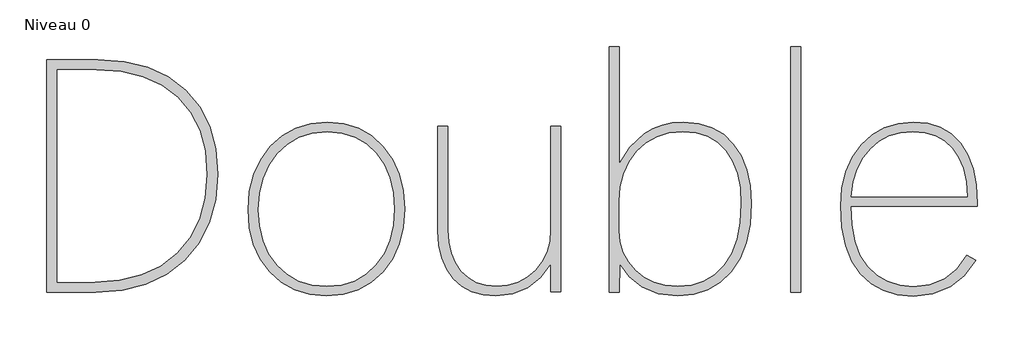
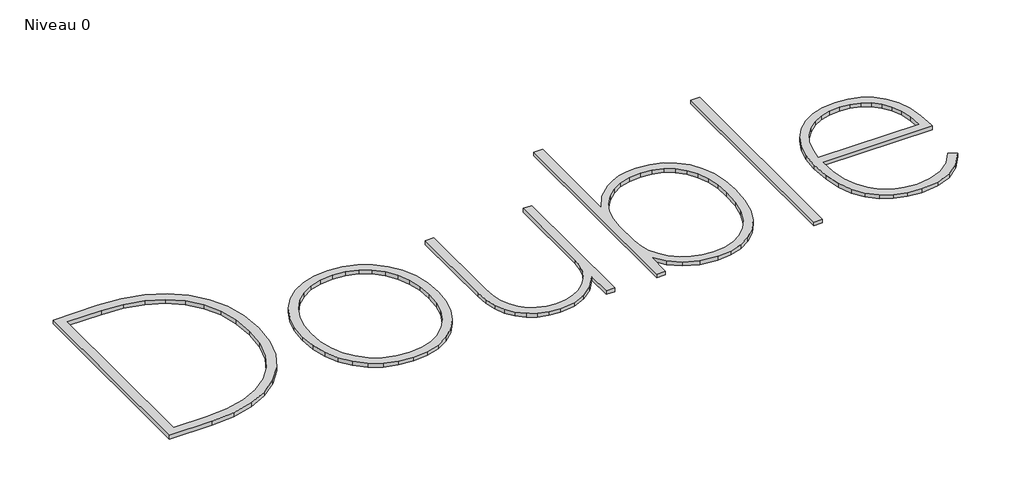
# One storey, part 26 of 26: 1 proxy.
"""IFC4 building model written with IfcOpenShell, lengths in millimetres."""

from ifc_helpers import new_model, si_unit, origin, origin_with_axes, place, context, project, spatial, polyline, outline, extrude, element, save

model = new_model("IFC4")

# Units and contexts
model_context = context("Model", 3, world=origin())
ifc_project = project(units=[si_unit("LENGTHUNIT", "METRE", prefix="MILLI")], contexts=[model_context])

# Site, building, storey
site = spatial("IfcSite", under=ifc_project)
building = spatial("IfcBuilding", under=site)
storey = spatial("IfcBuildingStorey", under=building, Name="Niveau 0", Elevation=0.0)

# Proxy
placement = place(None, origin())
element("IfcBuildingElementProxy", 1, Name="5 mm", ObjectType="5 mm", at=placement, inside=storey, context=model_context, shape_type="SweptSolid", body=[
    extrude(outline(polyline([(34014.4887393, 5620.5662903), (34014.4887393, 6125.5935806), (34125.3813725, 6125.5935806), (34183.3586482, 6121.4660982), (34234.6774824, 6109.0836509), (34279.3378751, 6088.4462389), (34317.3398263, 6059.553862), (34347.6784655, 6023.355043), (34369.3489221, 5980.7983046), (34382.351196, 5931.8836467), (34386.6852873, 5876.6110694), (34382.1962393, 5821.1177963), (34368.7290954, 5771.5410508), (34346.2838554, 5727.880833), (34314.8605195, 5690.1371429), (34275.8396107, 5659.6998949), (34230.6016522, 5637.9590035), (34179.1466439, 5624.9144686), (34121.474586, 5620.5662903), (34014.4887393, 5620.5662903)]), holes=[polyline([(34037.7791975, 6104.1062546), (34037.7791975, 5642.0536163), (34119.0704096, 5642.0536163), (34172.7840289, 5645.9604028), (34220.4778159, 5657.6807624), (34262.1517709, 5677.2146951), (34297.8058937, 5704.5622008), (34326.3695745, 5738.7090178), (34346.7722037, 5778.640884), (34359.0137813, 5824.3577995), (34363.0943071, 5875.8597643), (34359.1217814, 5927.3711204), (34347.2042042, 5972.6654268), (34327.3415755, 6011.7426835), (34299.5338954, 6044.6028905), (34264.6357734, 6070.6356123), (34223.501819, 6089.2304136), (34176.1320322, 6100.3872944), (34122.5264131, 6104.1062546), (34037.7791975, 6104.1062546)])]), origin_with_axes(), (0.0, 0.0, 1.0), 10.0),
    extrude(outline(polyline([(34623.0458727, 5612.1516732), (34586.6498362, 5615.4104591), (34553.9445859, 5625.1868167), (34524.9301219, 5641.4807461), (34499.6064443, 5664.2922473), (34479.0629454, 5692.3347103), (34464.3890176, 5724.321525), (34455.5846609, 5760.2526916), (34452.6498754, 5800.1282099), (34455.6832697, 5840.2479024), (34464.7834528, 5876.4608084), (34479.9504246, 5908.7669278), (34501.184185, 5937.1662607), (34527.0854285, 5960.3064579), (34556.2548491, 5976.8351702), (34588.6924469, 5986.7523975), (34624.3982219, 5990.05814), (34660.6299105, 5986.7430062), (34693.1426389, 5976.7976049), (34721.9364069, 5960.2219361), (34747.0112147, 5937.0159997), (34767.3246265, 5908.6166668), (34781.8342063, 5876.4608084), (34790.5399541, 5840.5484245), (34793.4418701, 5800.879515), (34790.5023889, 5761.1026055), (34781.6839452, 5725.1667433), (34766.9865392, 5693.0719284), (34746.4101707, 5664.8181609), (34721.0630147, 5641.7765725), (34692.0532465, 5625.3182951), (34659.3808658, 5615.4433287), (34623.0458727, 5612.1516732)]), holes=[polyline([(34623.7971778, 5632.887694), (34655.5586011, 5635.8130883), (34683.9767166, 5644.589271), (34709.0515244, 5659.2162422), (34730.7830245, 5679.6940019), (34748.33539, 5704.8392446), (34760.8727939, 5733.4686647), (34768.3952362, 5765.5822622), (34770.902717, 5801.1800371), (34768.4046275, 5836.7684207), (34760.9103591, 5868.8538442), (34748.4199118, 5897.4363078), (34730.9332855, 5922.5158112), (34709.2863073, 5942.9278317), (34684.3148039, 5957.5078464), (34656.0187755, 5966.2558552), (34624.3982219, 5969.1718581), (34592.6931466, 5966.204203), (34564.1435527, 5957.3012375), (34538.7494402, 5942.4629617), (34516.5108091, 5921.6893756), (34498.4325301, 5896.2670892), (34485.5194736, 5867.4827124), (34477.7716398, 5835.3362453), (34475.1890285, 5799.8276879), (34477.7293788, 5764.394261), (34485.35043, 5732.4731854), (34498.0521819, 5704.0644612), (34515.8346345, 5679.1680884), (34537.8243958, 5658.9204158), (34563.1480734, 5644.4577926), (34591.8056674, 5635.7802187), (34623.7971778, 5632.887694)])]), origin_with_axes(), (0.0, 0.0, 1.0), 10.0),
    extrude(outline(polyline([(35132.8815156, 5620.8668124), (35111.3941897, 5620.8668124), (35111.3941897, 5682.6240918), (35088.9301671, 5652.4028441), (35061.3572698, 5630.2581262), (35028.6003673, 5616.6782864), (34991.6361563, 5612.1516732), (34963.9505632, 5614.5041973), (34939.3453211, 5621.5617696), (34917.8204299, 5633.3243901), (34899.3758896, 5649.7920588), (34884.5845704, 5670.4200796), (34874.0193424, 5694.6637561), (34867.6802056, 5722.5230885), (34865.56716, 5753.9980766), (34865.56716, 5981.4932618), (34887.355008, 5981.4932618), (34887.355008, 5756.1017309), (34889.1252706, 5728.9326601), (34894.4360586, 5704.8251576), (34903.2873718, 5683.7792234), (34915.6792104, 5665.7948575), (34931.1607911, 5651.3979735), (34949.2813311, 5641.1144849), (34970.0408302, 5634.9443917), (34993.4392885, 5632.887694), (35017.8191391, 5635.0758701), (35040.0202049, 5641.6403985), (35060.0424859, 5652.581279), (35077.8859821, 5667.8985118), (35092.5458229, 5686.5872262), (35103.0171378, 5707.6425518), (35109.2999267, 5731.0644883), (35111.3941897, 5756.853036), (35111.3941897, 5981.4932618), (35132.8815156, 5981.4932618), (35132.8815156, 5620.8668124)])), origin_with_axes(), (0.0, 0.0, 1.0), 10.0),
    extrude(outline(polyline([(35261.2044272, 5681.8727867), (35260.1526001, 5620.5662903), (35238.3647521, 5620.5662903), (35238.3647521, 6154.4436965), (35260.1526001, 6154.4436965), (35260.1526001, 5899.1502225), (35282.59784, 5935.4006937), (35313.7206539, 5964.5137665), (35332.5643251, 5975.6894299), (35353.107824, 5983.6720466), (35375.3511507, 5988.4616166), (35399.2943052, 5990.05814), (35432.2390339, 5987.0857892), (35461.3521067, 5978.1687367), (35486.6335234, 5963.3069827), (35508.0832841, 5942.500527), (35525.1754752, 5916.5851966), (35537.3841831, 5886.3968184), (35544.7094079, 5851.9353925), (35547.1511494, 5813.2009187), (35544.4229728, 5767.8502645), (35536.2384428, 5727.9653548), (35522.5975595, 5693.5461898), (35503.500323, 5664.5927694), (35479.8295166, 5641.6497898), (35452.4679238, 5625.2619472), (35421.4155448, 5615.4292417), (35386.6723794, 5612.1516732), (35344.3363369, 5617.0351563), (35308.9874318, 5631.6856058), (35281.1140125, 5653.9993674), (35261.2044272, 5681.8727867)]), holes=[polyline([(35260.1526001, 5817.8590104), (35260.1526001, 5753.6975546), (35262.3642545, 5729.5947477), (35268.9992177, 5707.3232471), (35280.0574897, 5686.8830526), (35295.5390704, 5668.2741644), (35314.5236113, 5652.7925836), (35336.0907634, 5641.7343116), (35360.2405268, 5635.0993484), (35386.9729015, 5632.887694), (35416.4851051, 5635.7379577), (35442.9639143, 5644.288749), (35466.4093292, 5658.5400676), (35486.8213497, 5678.4919138), (35503.3547576, 5703.9940264), (35515.1643347, 5734.8961444), (35522.2500809, 5771.1982678), (35524.6119964, 5812.9003967), (35522.5130377, 5847.6952143), (35516.2161618, 5878.4517669), (35505.7213687, 5905.1700547), (35491.0286582, 5927.8500775), (35472.6357702, 5945.9283565), (35451.0404441, 5958.841413), (35426.2426801, 5966.5892468), (35398.242478, 5969.1718581), (35368.8993181, 5966.5000293), (35342.4768568, 5958.484543), (35318.975094, 5945.1253992), (35298.3940298, 5926.4225978), (35281.6634043, 5903.6064009), (35269.7129575, 5877.9070707), (35262.5426895, 5849.3246072), (35260.1526001, 5817.8590104)])]), origin_with_axes(), (0.0, 0.0, 1.0), 10.0),
    extrude(outline(polyline([(35632.6496702, 5620.5662903), (35632.6496702, 6154.4436965), (35654.4375182, 6154.4436965), (35654.4375182, 5620.5662903), (35632.6496702, 5620.5662903)])), origin_with_axes(), (0.0, 0.0, 1.0), 10.0),
    extrude(outline(polyline([(36038.8052088, 5807.641261), (35763.3767581, 5807.641261), (35765.2409339, 5766.4086978), (35771.8852884, 5730.7639663), (35783.3098216, 5700.7070665), (35799.5145335, 5676.2379985), (35819.6823799, 5657.2534576), (35842.9963164, 5643.6501396), (35869.456343, 5635.4280444), (35899.0624597, 5632.587172), (35935.2753657, 5636.8132632), (35967.280963, 5649.4915368), (35994.2903815, 5670.6219928), (36015.5147507, 5700.2046312), (36034.5979003, 5689.9868818), (36010.405876, 5656.1593696), (35979.3018447, 5631.6104753), (35941.9619811, 5616.6782864), (35899.0624597, 5611.7008901), (35864.8921645, 5614.8892411), (35834.3563077, 5624.0035112), (35807.4548893, 5639.0437002), (35784.1879094, 5660.0098082), (35765.4193688, 5687.2493139), (35752.0132684, 5721.1096957), (35743.9696081, 5761.5909538), (35741.2883881, 5808.6930881), (35744.0682169, 5847.6905186), (35752.4077036, 5882.6402929), (35766.306848, 5913.5424109), (35785.7656502, 5940.3968727), (35809.525674, 5962.1236771), (35836.3284836, 5977.6428232), (35866.1740788, 5986.9543108), (35899.0624597, 5990.05814), (35930.4106651, 5987.2172676), (35958.0399103, 5978.6946503), (35981.9501952, 5964.4902882), (36002.1415198, 5944.6041812), (36018.1818838, 5919.3274602), (36029.6392866, 5888.9512557), (36036.5137283, 5853.4755679), (36038.8052088, 5812.9003967), (36038.8052088, 5807.641261)]), holes=[polyline([(36016.5665778, 5827.9264988), (36014.0027491, 5860.7256622), (36007.6636123, 5889.2517778), (35997.5491674, 5913.5048456), (35983.6594143, 5933.4848657), (35966.4920927, 5949.0979249), (35946.5449422, 5960.25011), (35923.8179628, 5966.9414211), (35898.3111546, 5969.1718581), (35871.7196496, 5966.8850732), (35847.5417123, 5960.0247185), (35825.7773425, 5948.590794), (35806.4265405, 5932.5832996), (35790.1936546, 5912.3215401), (35777.7830334, 5888.1248201), (35769.194677, 5859.9931397), (35764.4285852, 5827.9264988), (36016.5665778, 5827.9264988)])]), origin_with_axes(), (0.0, 0.0, 1.0), 10.0),
])

save(model, "model.ifc")
